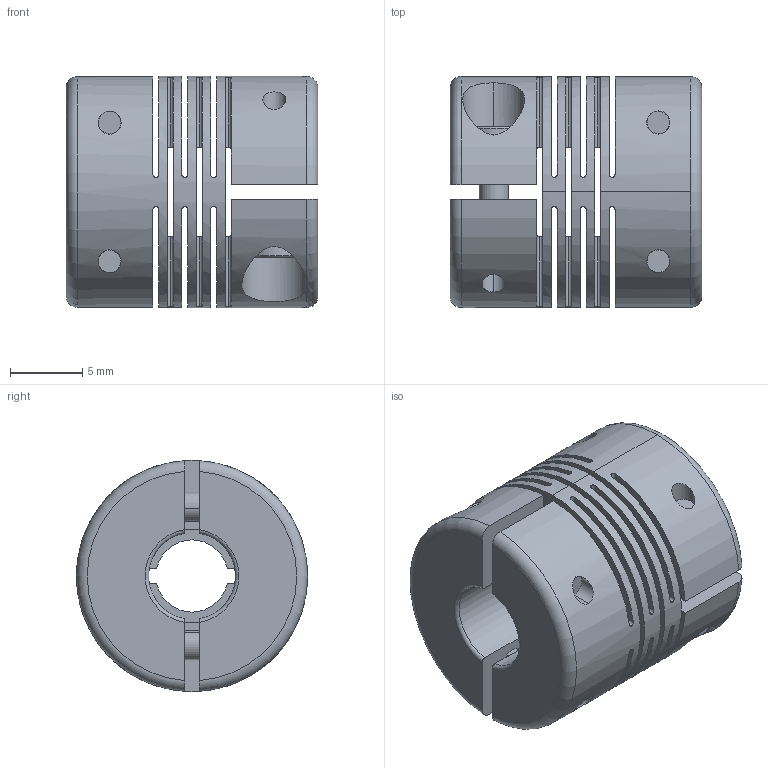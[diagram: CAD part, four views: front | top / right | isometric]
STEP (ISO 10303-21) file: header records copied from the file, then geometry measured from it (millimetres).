
FILE_DESCRIPTION (( 'STEP AP203' ), '1' );
FILE_NAME ('FACS16-5x6.STEP', '2013-12-13T02:19:17', ( '123' ), ( '' ), 'SwSTEP 2.0', 'SolidWorks 2013', '' );
FILE_SCHEMA (( 'CONFIG_CONTROL_DESIGN' ));
Length unit declared in the file: millimetre
Products named in the file (1): FACS16-5x6
Bounding box: 17.4 x 16 x 16 mm (x, y, z)
Surface area: 3795.1 mm2 (no closed solid volume)
Topology: 0 solids, 10 shells, 190 faces, 558 edges, 363 vertices
Faces by surface type: cylinder 87, plane 75, torus 18, cone 10
Entity records: 6963 total; most frequent: CARTESIAN_POINT 2034, DIRECTION 994, ORIENTED_EDGE 961, EDGE_CURVE 550, AXIS2_PLACEMENT_3D 381, VERTEX_POINT 363, VECTOR 232, LINE 232
